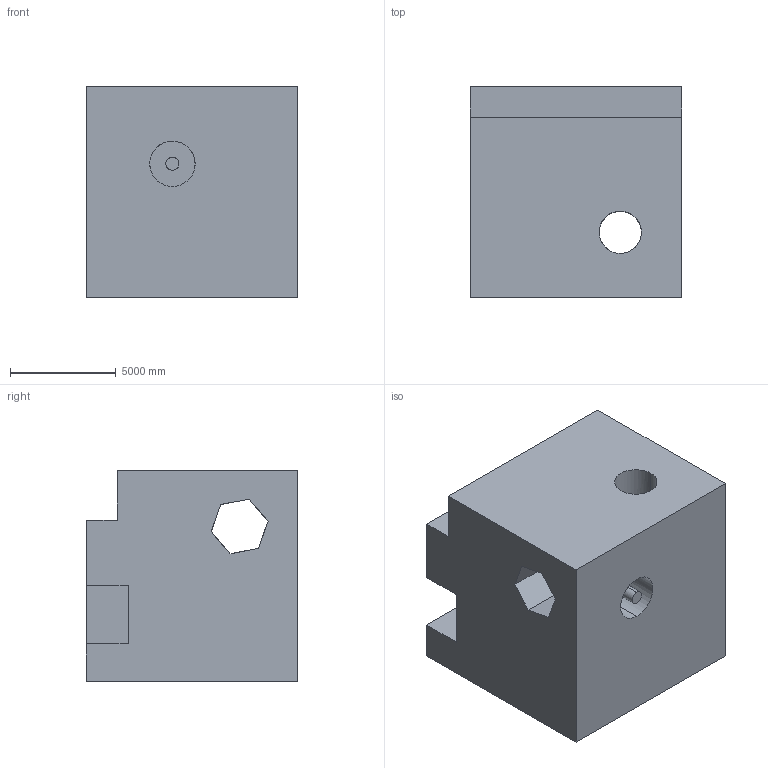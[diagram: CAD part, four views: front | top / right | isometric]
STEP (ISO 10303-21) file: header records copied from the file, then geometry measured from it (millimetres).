
FILE_DESCRIPTION (( 'STEP AP203' ), '1' );
FILE_NAME ('413.STEP', '2022-07-29T11:10:53', ( 'user' ), ( '' ), 'SwSTEP 2.0', 'SolidWorks 2021', '' );
FILE_SCHEMA (( 'CONFIG_CONTROL_DESIGN' ));
Length unit declared in the file: centimetre
Products named in the file (1): 413
Bounding box: 10000 x 10000 x 10000 mm (x, y, z)
Volume: 836659123513.7 mm3; surface area: 764103114.1 mm2
Topology: 1 solids, 1 shells, 34 faces, 102 edges, 68 vertices
Faces by surface type: plane 26, cylinder 8
Entity records: 1231 total; most frequent: CARTESIAN_POINT 277, ORIENTED_EDGE 204, DIRECTION 160, EDGE_CURVE 102, VERTEX_POINT 68, VECTOR 66, LINE 66, AXIS2_PLACEMENT_3D 47
